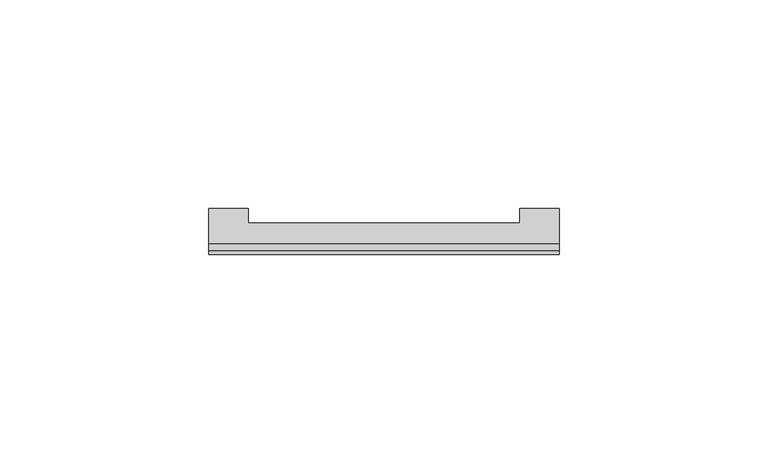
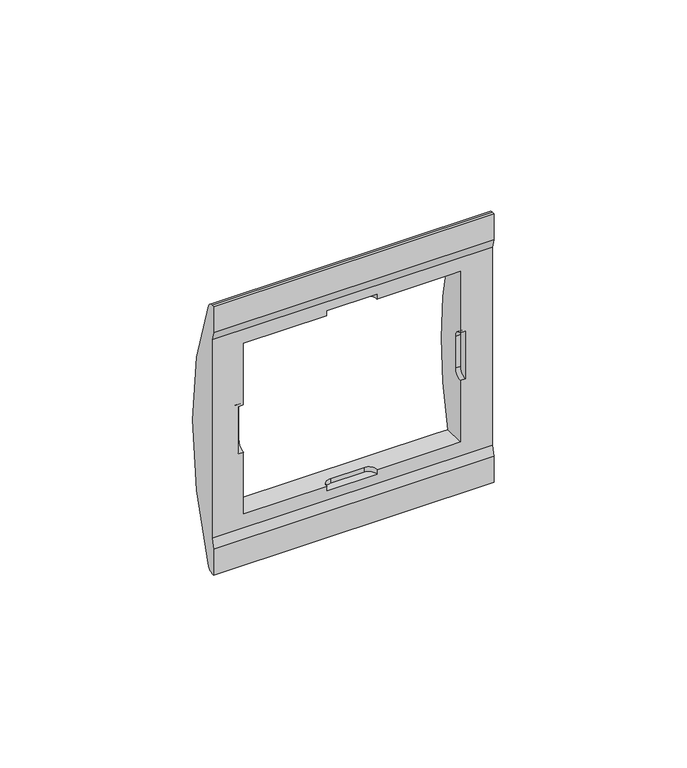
"""IFC4 building model written with IfcOpenShell, lengths in millimetres: proxy geometry, Iris_AceroNeptuno : Marco 1 Elemento."""

import ifcopenshell
import ifcopenshell.guid

model = None  # the IFC model being written
_history = None  # IfcOwnerHistory: only IFC2X3 demands one
_inside = {}  # id of a spatial element -> (the spatial element, [elements in it])
_under = {}  # id of a project, library or spatial element -> (it, [spatial elements below it])
_declared = {}  # id of a project -> (the project, [libraries it declares])
_typed = {}  # id of a type object -> (the type object, [elements of that type])
_made_of = {}  # id of a material, layer set ... -> (it, [elements and type objects made of it])


def new_model(schema):
    """Start an empty IFC model of exactly this schema.

    Asked for "IFC4X3", IfcOpenShell would pick the latest addendum, in which some entities
    have other attributes; the version numbers below select the first issue.
    IFC2X3 requires an IfcOwnerHistory on every rooted entity: one is made here for all.
    """
    global model, _history
    if schema == "IFC4X3":
        model = ifcopenshell.file(schema_version=(4, 3, 0, 0))
    else:
        model = ifcopenshell.file(schema=schema)
    _inside.clear()
    _under.clear()
    _declared.clear()
    _typed.clear()
    _made_of.clear()
    _history = None
    if model.schema == "IFC2X3":
        org = make("IfcOrganization", Name="unknown")
        user = make(
            "IfcPersonAndOrganization",
            ThePerson=make("IfcPerson", FamilyName="unknown"),
            TheOrganization=org,
        )
        app = make(
            "IfcApplication",
            ApplicationDeveloper=org,
            Version="unknown",
            ApplicationFullName="unknown",
            ApplicationIdentifier="unknown",
        )
        _history = make(
            "IfcOwnerHistory",
            OwningUser=user,
            OwningApplication=app,
            ChangeAction="ADDED",
            CreationDate=0,
        )
    return model


def make(cls, **values):
    """One entity of the class cls with the attributes given. An attribute that is None is left unset."""
    return model.create_entity(
        cls, **{name: value for name, value in values.items() if value is not None}
    )


def rooted(cls, **values):
    """An entity with a GlobalId (a new one), such as an element, a storey or a relation."""
    return make(cls, GlobalId=ifcopenshell.guid.new(), OwnerHistory=_history, **values)


def si_unit(unit_type, name, prefix=None):
    """IfcSIUnit, for example si_unit("LENGTHUNIT", "METRE", prefix="MILLI")."""
    return make("IfcSIUnit", UnitType=unit_type, Prefix=prefix, Name=name)


def assignment(units):
    """IfcUnitAssignment: the units of a project."""
    return None if units is None else make("IfcUnitAssignment", Units=units)


def point(xyz):
    """IfcCartesianPoint."""
    return None if xyz is None else make("IfcCartesianPoint", Coordinates=xyz)


def direction(xyz):
    """IfcDirection."""
    return None if xyz is None else make("IfcDirection", DirectionRatios=xyz)


def frame(location, z_axis=None, x_axis=None):
    """IfcAxis2Placement3D, a coordinate frame: its origin and axes. An axis left out is left unset."""
    return make(
        "IfcAxis2Placement3D",
        Location=point(location),
        Axis=direction(z_axis),
        RefDirection=direction(x_axis),
    )


def origin():
    """The frame at (0, 0, 0) with its axes left unset."""
    return frame((0.0, 0.0, 0.0))


def place(relative_to, where):
    """IfcLocalPlacement: puts the frame where relative to a parent placement (None: the world)."""
    return make(
        "IfcLocalPlacement", PlacementRelTo=relative_to, RelativePlacement=where
    )


def context(
    kind, dimensions, precision=None, world=None, true_north=None, identifier=None
):
    """IfcGeometricRepresentationContext, for example the 3D "Model" context."""
    return make(
        "IfcGeometricRepresentationContext",
        ContextIdentifier=identifier,
        ContextType=kind,
        CoordinateSpaceDimension=dimensions,
        Precision=precision,
        WorldCoordinateSystem=world,
        TrueNorth=true_north,
    )


def project(units=None, contexts=None):
    """IfcProject with its units and contexts."""
    return rooted(
        "IfcProject",
        Name="project",
        RepresentationContexts=contexts,
        UnitsInContext=assignment(units),
    )


def spatial(cls, under=None, at=None, **own):
    """A site, building, storey or space (cls), placed at a placement, below another one or the project."""
    s = rooted(cls, ObjectPlacement=at, **own)
    if under is not None:
        _under.setdefault(under.id(), (under, []))[1].append(s)
    return s


def polyline(points):
    """IfcPolyline through the points."""
    return make("IfcPolyline", Points=[point(p) for p in points])


def circle_curve(where, radius):
    """IfcCircle in the frame where."""
    return make("IfcCircle", Position=where, Radius=radius)


def shape(context_of_items, identifier, shape_type, items):
    """IfcShapeRepresentation: the items that make up one representation, for example the "Body"."""
    return make(
        "IfcShapeRepresentation",
        ContextOfItems=context_of_items,
        RepresentationIdentifier=identifier,
        RepresentationType=shape_type,
        Items=items,
    )


def source(mapping_origin, context_of_items, identifier, shape_type, items):
    """IfcRepresentationMap: a shape defined once, which mapped items show again and again."""
    return make(
        "IfcRepresentationMap",
        MappingOrigin=mapping_origin,
        MappedRepresentation=shape(context_of_items, identifier, shape_type, items),
    )


def transform(
    local_origin,
    x_axis=None,
    y_axis=None,
    z_axis=None,
    scale=None,
    scale2=None,
    scale3=None,
    uniform=True,
):
    """IfcCartesianTransformationOperator3D, or its non-uniform kind. x_axis, y_axis, z_axis: its Axis1, 2, 3."""
    if uniform:
        return make(
            "IfcCartesianTransformationOperator3D",
            Axis1=direction(x_axis),
            Axis2=direction(y_axis),
            LocalOrigin=point(local_origin),
            Scale=scale,
            Axis3=direction(z_axis),
        )
    return make(
        "IfcCartesianTransformationOperator3DnonUniform",
        Axis1=direction(x_axis),
        Axis2=direction(y_axis),
        LocalOrigin=point(local_origin),
        Scale=scale,
        Axis3=direction(z_axis),
        Scale2=scale2,
        Scale3=scale3,
    )


def mapped(mapping_source, mapping_target):
    """IfcMappedItem: shows the shape of a source again, moved by a transform."""
    return make(
        "IfcMappedItem", MappingSource=mapping_source, MappingTarget=mapping_target
    )


def made_of(thing, what):
    """Note that an element or type object is made of a material, layer set ...; save() writes the relation."""
    if what is not None:
        _made_of.setdefault(what.id(), (what, []))[1].append(thing)
    return thing


def element(
    cls,
    number,
    at=None,
    inside=None,
    cuts=None,
    type_object=None,
    material=None,
    context=None,
    identifier="Body",
    shape_type=None,
    held_by="IfcProductDefinitionShape",
    body=None,
    shapes=None,
    **own,
):
    """One element of the class cls, such as IfcWall. Its Tag is "e" and its number.

    at: its placement. inside: the storey or other place that contains it. cuts: it is an
    opening in that element (IfcRelVoidsElement). A single representation is given by context,
    identifier, shape_type and body (its items); several are given by shapes. held_by: the class
    of the entity that holds the representations. save() writes the other relations.
    """
    e = rooted(cls, Tag="e%d" % number, ObjectPlacement=at, **own)
    if body is not None:
        shapes = [shape(context, identifier, shape_type, body)]
    if shapes is not None:
        e.Representation = make(held_by, Representations=shapes)
    if inside is not None:
        _inside.setdefault(inside.id(), (inside, []))[1].append(e)
    if cuts is not None:
        rooted(
            "IfcRelVoidsElement", RelatingBuildingElement=cuts, RelatedOpeningElement=e
        )
    if type_object is not None:
        _typed.setdefault(type_object.id(), (type_object, []))[1].append(e)
    return made_of(e, material)


def aggregate(whole, parts):
    """IfcRelAggregates: a whole, such as a stair, and the parts it consists of."""
    return rooted("IfcRelAggregates", RelatingObject=whole, RelatedObjects=parts)


def save(model, path):
    """Write the relations noted so far, then the file.

    IfcRelAggregates (storeys below a building ...), IfcRelContainedInSpatialStructure (elements
    in a storey), IfcRelDefinesByType, IfcRelAssociatesMaterial and IfcRelDeclares: one each for
    every whole, place, type object, material and project.
    """
    for whole, parts in _under.values():
        aggregate(whole, parts)
    for where, things in _inside.values():
        rooted(
            "IfcRelContainedInSpatialStructure",
            RelatedElements=things,
            RelatingStructure=where,
        )
    for kind, things in _typed.values():
        rooted("IfcRelDefinesByType", RelatedObjects=things, RelatingType=kind)
    for what, things in _made_of.values():
        rooted("IfcRelAssociatesMaterial", RelatedObjects=things, RelatingMaterial=what)
    for by, libraries in _declared.values():
        rooted("IfcRelDeclares", RelatingContext=by, RelatedDefinitions=libraries)
    model.write(path)


def plane_surface(at):
    """IfcPlane: the flat surface through the origin of the frame at, square to its z axis."""
    return make("IfcPlane", Position=at)


def cylinder_surface(at, radius):
    """IfcCylindricalSurface: all points at the distance radius from the z axis of the frame at."""
    return make("IfcCylindricalSurface", Position=at, Radius=radius)


def revolved_surface(curve, axis_point, axis_direction):
    """IfcSurfaceOfRevolution: the curve turned about the line through axis_point along axis_direction."""
    return make(
        "IfcSurfaceOfRevolution",
        SweptCurve=make("IfcArbitraryOpenProfileDef", ProfileType="CURVE", Curve=curve),
        AxisPosition=make("IfcAxis1Placement", Location=point(axis_point), Axis=direction(axis_direction)),
    )


def advanced_brep(points, edges, surfaces, faces):
    """IfcAdvancedBrep: a solid bounded by faces that lie on surfaces and meet in shared edges.

    An edge is (start, end): straight between two places in points (the first is 0);
    or (start, end, curve); or (start, end, curve, False) where it runs against its curve.
    A face is (place in surfaces, loops), or (place, loops, False) where it looks against
    its surface's normal. A loop lists edges by number (the first is 1), with a minus sign
    where the edge is run from its end to its start. The first loop is the outer one.
    """
    corners = [point(p) for p in points]
    vertices = [make("IfcVertexPoint", VertexGeometry=c) for c in corners]
    made = []
    for start, end, *more in edges:
        made.append(
            make(
                "IfcEdgeCurve",
                EdgeStart=vertices[start],
                EdgeEnd=vertices[end],
                EdgeGeometry=more[0] if more else make("IfcPolyline", Points=[corners[start], corners[end]]),
                SameSense=more[1] if len(more) > 1 else True,
            )
        )
    hull = []
    for where, loops, *sense in faces:
        bounds = []
        for j, loop in enumerate(loops):
            ring = [make("IfcOrientedEdge", EdgeElement=made[abs(k) - 1], Orientation=k > 0) for k in loop]
            bounds.append(
                make(
                    "IfcFaceOuterBound" if j == 0 else "IfcFaceBound",
                    Bound=make("IfcEdgeLoop", EdgeList=ring),
                    Orientation=True,
                )
            )
        hull.append(make("IfcAdvancedFace", Bounds=bounds, FaceSurface=surfaces[where], SameSense=sense[0] if sense else True))
    return make("IfcAdvancedBrep", Outer=make("IfcClosedShell", CfsFaces=hull))


def electrical_fixtures_10caa466(model_context):
    return source(origin(), model_context, "Body", "AdvancedBrep", [
        advanced_brep(
        [(83.3, 100.0, 957.5), (83.3, 100.0, 965.7230531), (83.3, 101.0, 968.6297767), (83.3, 101.0, 1031.3702233), (83.3, 100.0, 1034.2769469), (83.3, 100.0, 1042.5), (83.3, 100.7901352, 1042.5), (83.3, 102.6322532, 1041.2788462), (83.3, 102.6322532, 958.7211538), (83.3, 100.7901352, 957.5), (167.3, 100.0, 957.5), (167.3, 100.7901352, 957.5), (167.3, 102.6322532, 958.7211538), (167.3, 102.6322532, 1041.2788462), (167.3, 100.7901352, 1042.5), (167.3, 100.0, 1042.5), (167.3, 100.0, 1034.2769469), (167.3, 101.0, 1031.3702233), (167.3, 101.0, 968.6297767), (167.3, 100.0, 965.7230531), (157.8, 111.0, 1000.0), (157.8, 107.5036585, 1027.0), (154.3, 107.5036585, 1027.0), (92.8, 107.5036585, 1027.0), (92.8, 111.0, 1000.0), (92.8, 107.5036585, 973.0), (154.3, 107.5036585, 973.0), (157.8, 107.5036585, 973.0), (159.3, 101.0, 1007.5), (159.3, 103.5, 1005.0), (159.3, 103.5, 995.0), (159.3, 101.0, 992.5), (157.8, 101.0, 1007.5), (157.8, 103.5, 1005.0), (157.8, 103.5, 995.0), (157.8, 101.0, 992.5), (91.3, 101.0, 992.5), (91.3, 103.5, 995.0), (91.3, 103.5, 1005.0), (91.3, 101.0, 1007.5), (92.8, 103.5, 1005.0), (92.8, 101.0, 1007.5), (92.8, 103.5, 995.0), (92.8, 101.0, 992.5), (157.8, 101.0, 973.0), (154.3, 101.0, 973.0), (132.8, 101.0, 973.0), (132.8, 101.0, 971.5), (117.8, 101.0, 971.5), (117.8, 101.0, 973.0), (92.8, 101.0, 973.0), (92.8, 101.0, 1027.0), (117.8, 101.0, 1027.0), (117.8, 101.0, 1028.5), (132.8, 101.0, 1028.5), (132.8, 101.0, 1027.0), (154.3, 101.0, 1027.0), (157.8, 101.0, 1027.0), (130.3, 103.5, 971.5), (120.3, 103.5, 971.5), (120.3, 103.5, 973.0), (130.3, 103.5, 973.0), (120.3, 103.5, 1028.5), (130.3, 103.5, 1028.5), (120.3, 103.5, 1027.0), (130.3, 103.5, 1027.0)],
        [
            (0, 1),
            (1, 2, circle_curve(frame((83.3, 5.0909091, 1000.0), z_axis=(1.0, 0.0, 0.0), x_axis=(0.0, 0.0, 1.0)), 100.9090909)),
            (2, 3),
            (3, 4, circle_curve(frame((83.3, 5.0909091, 1000.0), z_axis=(1.0, 0.0, 0.0), x_axis=(0.0, 0.0, 1.0)), 100.9090909)),
            (4, 5),
            (5, 6),
            (6, 7, circle_curve(frame((83.3, 100.7901352, 1040.5), z_axis=(-1.0, 0.0, 0.0), x_axis=(0.0, 0.0, 1.0)), 2.0)),
            (7, 8, circle_curve(frame((83.3, 5.0, 1000.0), z_axis=(-1.0, 0.0, 0.0), x_axis=(0.0, 0.0, 1.0)), 106.0)),
            (8, 9, circle_curve(frame((83.3, 100.7901352, 959.5), z_axis=(-1.0, 0.0, 0.0), x_axis=(0.0, 0.0, 1.0)), 2.0)),
            (9, 0),
            (10, 11),
            (11, 12, circle_curve(frame((167.3, 100.7901352, 959.5), z_axis=(1.0, 0.0, 0.0), x_axis=(0.0, 0.0, 1.0)), 2.0)),
            (12, 13, circle_curve(frame((167.3, 5.0, 1000.0), z_axis=(1.0, 0.0, 0.0), x_axis=(0.0, 0.0, 1.0)), 106.0)),
            (13, 14, circle_curve(frame((167.3, 100.7901352, 1040.5), z_axis=(1.0, 0.0, 0.0), x_axis=(0.0, 0.0, 1.0)), 2.0)),
            (14, 15),
            (15, 16),
            (16, 17, circle_curve(frame((167.3, 5.0909091, 1000.0), z_axis=(-1.0, 0.0, 0.0), x_axis=(0.0, 0.0, 1.0)), 100.9090909)),
            (17, 18),
            (18, 19, circle_curve(frame((167.3, 5.0909091, 1000.0), z_axis=(-1.0, 0.0, 0.0), x_axis=(0.0, 0.0, 1.0)), 100.9090909)),
            (19, 10),
            (0, 10),
            (19, 1),
            (7, 13),
            (12, 8),
            (20, 21, circle_curve(frame((157.8, 5.0, 1000.0), z_axis=(1.0, 0.0, 0.0), x_axis=(0.0, 0.0, 1.0)), 106.0)),
            (21, 22),
            (22, 23),
            (23, 24, circle_curve(frame((92.8, 5.0, 1000.0), z_axis=(-1.0, 0.0, 0.0), x_axis=(0.0, 0.0, 1.0)), 106.0)),
            (24, 25, circle_curve(frame((92.8, 5.0, 1000.0), z_axis=(-1.0, 0.0, 0.0), x_axis=(0.0, 0.0, 1.0)), 106.0)),
            (25, 26),
            (26, 27),
            (27, 20, circle_curve(frame((157.8, 5.0, 1000.0), z_axis=(1.0, 0.0, 0.0), x_axis=(0.0, 0.0, 1.0)), 106.0)),
            (5, 15),
            (14, 6),
            (9, 11),
            (28, 29, circle_curve(frame((159.3, 101.0, 1005.0), z_axis=(-1.0, 0.0, 0.0), x_axis=(0.0, 0.0, -1.0)), 2.5)),
            (29, 30),
            (30, 31, circle_curve(frame((159.3, 101.0, 995.0), z_axis=(-1.0, 0.0, 0.0), x_axis=(0.0, 0.0, -1.0)), 2.5)),
            (31, 28),
            (28, 32),
            (32, 33, circle_curve(frame((157.8, 101.0, 1005.0), z_axis=(-1.0, 0.0, 0.0), x_axis=(0.0, 0.0, -1.0)), 2.5)),
            (33, 29),
            (33, 34),
            (34, 30),
            (34, 35, circle_curve(frame((157.8, 101.0, 995.0), z_axis=(-1.0, 0.0, 0.0), x_axis=(0.0, 0.0, -1.0)), 2.5)),
            (35, 31),
            (36, 37, circle_curve(frame((91.3, 101.0, 995.0), z_axis=(1.0, 0.0, 0.0), x_axis=(0.0, 0.0, -1.0)), 2.5)),
            (37, 38),
            (38, 39, circle_curve(frame((91.3, 101.0, 1005.0), z_axis=(1.0, 0.0, 0.0), x_axis=(0.0, 0.0, -1.0)), 2.5)),
            (39, 36),
            (38, 40),
            (40, 41, circle_curve(frame((92.8, 101.0, 1005.0), z_axis=(1.0, 0.0, 0.0), x_axis=(0.0, 0.0, -1.0)), 2.5)),
            (41, 39),
            (37, 42),
            (42, 40),
            (36, 43),
            (43, 42, circle_curve(frame((92.8, 101.0, 995.0), z_axis=(1.0, 0.0, 0.0), x_axis=(0.0, 0.0, -1.0)), 2.5)),
            (18, 2),
            (17, 3),
            (35, 44),
            (44, 45),
            (45, 46),
            (46, 47),
            (47, 48),
            (48, 49),
            (49, 50),
            (50, 43),
            (41, 51),
            (51, 52),
            (52, 53),
            (53, 54),
            (54, 55),
            (55, 56),
            (56, 57),
            (57, 32),
            (16, 4),
            (47, 58, circle_curve(frame((130.3, 101.0, 971.5), z_axis=(0.0, 0.0, 1.0), x_axis=(1.0, 0.0, 0.0)), 2.5)),
            (58, 59),
            (59, 48, circle_curve(frame((120.3, 101.0, 971.5), z_axis=(0.0, 0.0, 1.0), x_axis=(1.0, 0.0, 0.0)), 2.5)),
            (59, 60),
            (60, 49, circle_curve(frame((120.3, 101.0, 973.0), z_axis=(0.0, 0.0, 1.0), x_axis=(1.0, 0.0, 0.0)), 2.5)),
            (58, 61),
            (61, 60),
            (46, 61, circle_curve(frame((130.3, 101.0, 973.0), z_axis=(0.0, 0.0, 1.0), x_axis=(1.0, 0.0, 0.0)), 2.5)),
            (53, 62, circle_curve(frame((120.3, 101.0, 1028.5), z_axis=(0.0, 0.0, -1.0), x_axis=(1.0, 0.0, 0.0)), 2.5)),
            (62, 63),
            (63, 54, circle_curve(frame((130.3, 101.0, 1028.5), z_axis=(0.0, 0.0, -1.0), x_axis=(1.0, 0.0, 0.0)), 2.5)),
            (52, 64, circle_curve(frame((120.3, 101.0, 1027.0), z_axis=(0.0, 0.0, -1.0), x_axis=(1.0, 0.0, 0.0)), 2.5)),
            (64, 62),
            (64, 65),
            (65, 63),
            (65, 55, circle_curve(frame((130.3, 101.0, 1027.0), z_axis=(0.0, 0.0, -1.0), x_axis=(1.0, 0.0, 0.0)), 2.5)),
            (57, 21),
            (27, 44),
            (50, 25),
            (23, 51),
        ],
        [
            plane_surface(frame((83.3, 100.0, 1045.0), z_axis=(-1.0, 0.0, 0.0), x_axis=(0.0, 0.0, 1.0))),
            plane_surface(frame((167.3, 100.0, 1045.0), z_axis=(1.0, 0.0, 0.0), x_axis=(0.0, 0.0, -1.0))),
            plane_surface(frame((83.3, 100.0, 957.5), z_axis=(0.0, -1.0, 0.0), x_axis=(1.0, 0.0, 0.0))),
            cylinder_surface(frame((167.3, 5.0, 1000.0), z_axis=(-1.0, 0.0, 0.0), x_axis=(0.0, 0.0, 1.0)), 106.0),
            plane_surface(frame((83.3, 100.0, 1042.5), z_axis=(0.0, 0.0, 1.0), x_axis=(1.0, 0.0, 0.0))),
            plane_surface(frame((83.3, 100.7901352, 957.5), z_axis=(0.0, 0.0, -1.0), x_axis=(1.0, 0.0, 0.0))),
            plane_surface(frame((159.3, 100.0, 1045.0), z_axis=(-1.0, 0.0, 0.0), x_axis=(0.0, 0.0, -1.0))),
            revolved_surface(polyline([(157.8, 101.0, 1002.5), (159.3, 101.0, 1002.5)]), (159.3, 101.0, 1005.0), (-1.0, 0.0, 0.0)),
            plane_surface(frame((153.8, 103.5, 1005.0), z_axis=(0.0, -1.0, 0.0), x_axis=(1.0, 0.0, 0.0))),
            revolved_surface(polyline([(157.8, 101.0, 992.5), (159.3, 101.0, 992.5)]), (159.3, 101.0, 995.0), (-1.0, 0.0, 0.0)),
            plane_surface(frame((91.3, 101.0, 992.5), z_axis=(1.0, 0.0, 0.0), x_axis=(0.0, -1.0, 0.0))),
            revolved_surface(polyline([(92.8, 101.0, 1002.5), (91.3, 101.0, 1002.5)]), (91.3, 101.0, 1005.0), (1.0, 0.0, 0.0)),
            plane_surface(frame((96.8, 103.5, 995.0), z_axis=(0.0, -1.0, 0.0), x_axis=(-1.0, 0.0, 0.0))),
            revolved_surface(polyline([(92.8, 101.0, 992.5), (91.3, 101.0, 992.5)]), (91.3, 101.0, 995.0), (1.0, 0.0, 0.0)),
            revolved_surface(polyline([(167.3, 5.0909091, 1100.9090909), (83.3, 5.0909091, 1100.9090909)]), (167.3, 5.0909091, 1000.0), (1.0, 0.0, 0.0)),
            plane_surface(frame((83.3, 101.0, 968.6297767), z_axis=(0.0, -1.0, 0.0), x_axis=(1.0, 0.0, 0.0))),
            plane_surface(frame((83.3, 100.0, 1034.2769469), z_axis=(0.0, -1.0, 0.0), x_axis=(1.0, 0.0, 0.0))),
            plane_surface(frame((80.3, 100.0, 971.5), z_axis=(0.0, 0.0, 1.0), x_axis=(-1.0, 0.0, 0.0))),
            revolved_surface(polyline([(122.8, 101.0, 971.5), (122.8, 101.0, 973.0)]), (120.3, 101.0, 979.0), (0.0, 0.0, -1.0)),
            plane_surface(frame((120.3, 103.5, 971.5), z_axis=(0.0, -1.0, 0.0), x_axis=(0.0, 0.0, 1.0))),
            revolved_surface(polyline([(132.8, 101.0, 971.5), (132.8, 101.0, 973.0)]), (130.3, 101.0, 979.0), (0.0, 0.0, -1.0)),
            plane_surface(frame((132.8, 120.0298457, 1028.5), z_axis=(0.0, 0.0, -1.0), x_axis=(0.0, 1.0, 0.0))),
            revolved_surface(polyline([(122.8, 101.0, 1028.5), (122.8, 101.0, 1027.0)]), (120.3, 101.0, 1021.0), (0.0, 0.0, 1.0)),
            plane_surface(frame((130.3, 103.5, 1028.5), z_axis=(0.0, -1.0, 0.0), x_axis=(0.0, 0.0, -1.0))),
            revolved_surface(polyline([(132.8, 101.0, 1028.5), (132.8, 101.0, 1027.0)]), (130.3, 101.0, 1021.0), (0.0, 0.0, 1.0)),
            plane_surface(frame((157.8, 94.1055079, 973.0), z_axis=(-1.0, 0.0, 0.0), x_axis=(0.0, 1.0, 0.0))),
            plane_surface(frame((92.8, 94.1055079, 973.0), z_axis=(1.0, 0.0, 0.0), x_axis=(0.0, -1.0, 0.0))),
            plane_surface(frame((157.8, 111.0, 1027.0), z_axis=(0.0, 0.0, -1.0), x_axis=(-1.0, 0.0, 0.0))),
            plane_surface(frame((157.8, 100.0, 973.0), z_axis=(0.0, 0.0, 1.0), x_axis=(-1.0, 0.0, 0.0))),
            cylinder_surface(frame((167.3, 100.7901352, 1040.5), z_axis=(-1.0, 0.0, 0.0), x_axis=(0.0, 0.0, 1.0)), 2.0),
            cylinder_surface(frame((167.3, 100.7901352, 959.5), z_axis=(-1.0, 0.0, 0.0), x_axis=(0.0, 0.0, 1.0)), 2.0),
        ],
        [
            (0, [[1, 2, 3, 4, 5, 6, 7, 8, 9, 10]]),
            (1, [[11, 12, 13, 14, 15, 16, 17, 18, 19, 20]]),
            (2, [[-1, 21, -20, 22]]),
            (3, [[-8, 23, -13, 24], [25, 26, 27, 28, 29, 30, 31, 32]]),
            (4, [[-6, 33, -15, 34]]),
            (5, [[-10, 35, -11, -21]]),
            (6, [[36, 37, 38, 39]]),
            (7, [[-36, 40, 41, 42]]),
            (8, [[-37, -42, 43, 44]]),
            (9, [[-38, -44, 45, 46]]),
            (10, [[47, 48, 49, 50]]),
            (11, [[-49, 51, 52, 53]]),
            (12, [[-48, 54, 55, -51]]),
            (13, [[-47, 56, 57, -54]]),
            (14, [[-2, -22, -19, 58]]),
            (15, [[-3, -58, -18, 59], [-39, -46, 60, 61, 62, 63, 64, 65, 66, 67, -56, -50, -53, 68, 69, 70, 71, 72, 73, 74, 75, -40]]),
            (14, [[-4, -59, -17, 76]]),
            (16, [[-5, -76, -16, -33]]),
            (17, [[77, 78, 79, -64]]),
            (18, [[-79, 80, 81, -65]]),
            (19, [[-78, 82, 83, -80]]),
            (20, [[-77, -63, 84, -82]]),
            (21, [[85, 86, 87, -71]]),
            (22, [[-85, -70, 88, 89]]),
            (23, [[-86, -89, 90, 91]]),
            (24, [[-87, -91, 92, -72]]),
            (25, [[93, -25, -32, 94, -60, -45, -43, -41, -75]]),
            (26, [[95, -29, -28, 96, -68, -52, -55, -57, -67]]),
            (27, [[-93, -74, -73, -92, -90, -88, -69, -96, -27, -26]]),
            (28, [[-94, -31, -30, -95, -66, -81, -83, -84, -62, -61]]),
            (29, [[-7, -34, -14, -23]]),
            (30, [[-9, -24, -12, -35]]),
        ],
    ),
    ])


if __name__ == "__main__":
    model = new_model("IFC4")
    model_context = context("Model", 3, world=origin())
    ifc_project = project(units=[si_unit("LENGTHUNIT", "METRE", prefix="MILLI")], contexts=[model_context])
    site = spatial("IfcSite", under=ifc_project)
    building = spatial("IfcBuilding", under=site)
    placement = place(None, origin())
    electrical_fixtures_shape = electrical_fixtures_10caa466(model_context)
    element("IfcBuildingElementProxy", 1, Name="Iris_AceroNeptuno : Marco 1 Elemento", ObjectType="Iris_AceroNeptuno : Marco 1 Elemento", at=placement, inside=building, context=model_context, shape_type="MappedRepresentation", body=[
        mapped(electrical_fixtures_shape, transform((0.0, 0.0, 0.0), x_axis=(1.0, 0.0, 0.0), y_axis=(0.0, 1.0, 0.0), z_axis=(0.0, 0.0, 1.0))),
    ])
    save(model, "model.ifc")
